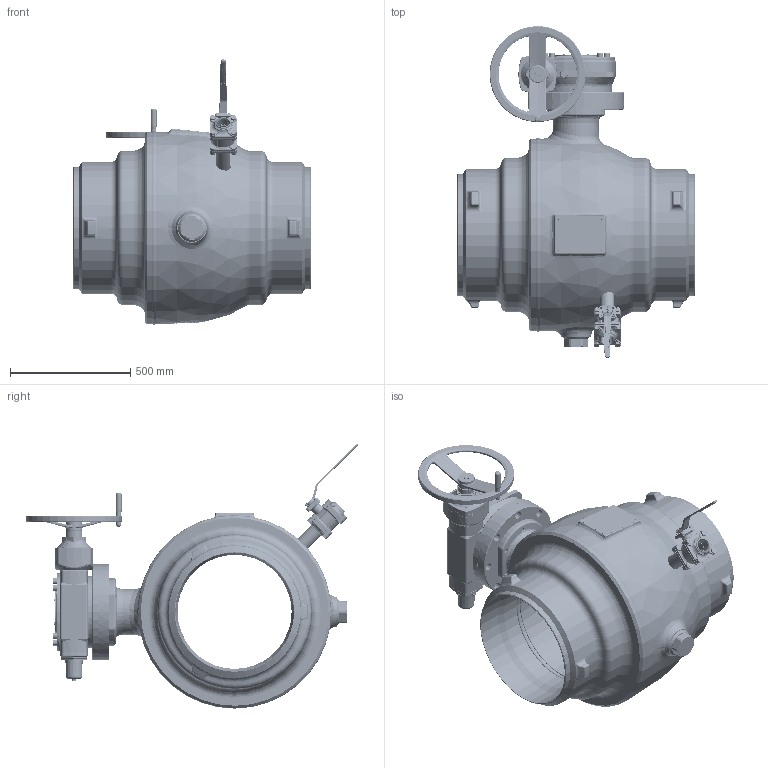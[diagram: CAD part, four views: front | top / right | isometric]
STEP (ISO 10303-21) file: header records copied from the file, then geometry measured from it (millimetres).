
FILE_DESCRIPTION((''),'2;1');
FILE_NAME('ASM0001_ASM','2026-01-28T11:02:07',('schwaba'),('KLINGER'),'CREO PARAMETRIC BY PTC INC, 2023014','CREO PARAMETRIC BY PTC INC, 2023014','');
FILE_SCHEMA(('CONFIG_CONTROL_DESIGN'));
Products named in the file (3): KHSVI_500_FR_WE_ENTL; GS160_F25_AHR400_DN600; ASM0001_ASM
Assembly tree (2 placements, depth 2):
  ASM0001_ASM
    KHSVI_500_FR_WE_ENTL
    GS160_F25_AHR400_DN600
Bounding box: 991 x 1382.94 x 1104.86 mm (x, y, z)
Volume: 139882056.4 mm3; surface area: 10337613.3 mm2
Topology: 2 solids, 6 shells, 4972 faces, 11872 edges, 7045 vertices
Faces by surface type: plane 1467, cylinder 1284, torus 763, bspline 676, cone 638, sphere 105, revolution 31, extrusion 8
Entity records: 298110 total; most frequent: CARTESIAN_POINT 188480, ORIENTED_EDGE 23602, DIRECTION 22309, EDGE_CURVE 11801, AXIS2_PLACEMENT_3D 9360, VERTEX_POINT 7045, EDGE_LOOP 5306, CIRCLE 5094
